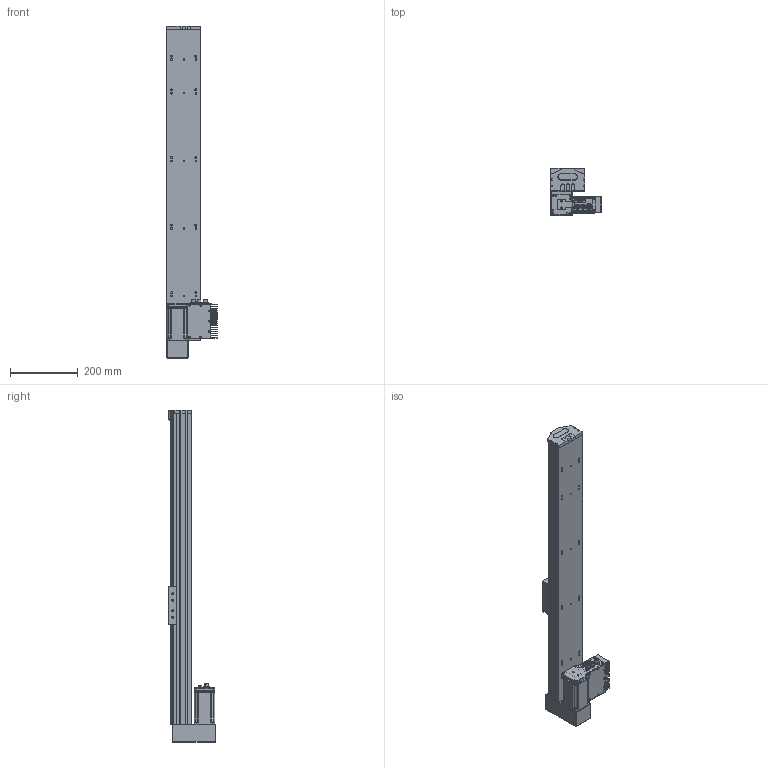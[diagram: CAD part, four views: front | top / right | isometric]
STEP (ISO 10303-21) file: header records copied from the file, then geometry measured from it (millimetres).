
FILE_DESCRIPTION (( 'STEP AP203' ), '1' );
FILE_NAME ('S 10 TSH BM S700.STEP', '2012-09-07T12:45:04', ( 'Conseil Régional Haute-Normandie' ), ( 'Conseil Régional Haute-Normandie' ), 'SwSTEP 2.0', 'SolidWorks 2010', '' );
FILE_SCHEMA (( 'CONFIG_CONTROL_DESIGN' ));
Length unit declared in the file: millimetre
Products named in the file (25): piece_plastique remplieTSH_Default; embout_modifié; T_X2_00F4_X0_le contre le moteur_5; BU41 Carte Alimentation P05_3; T_X2_00F4_X0_le fond_3; Connecteur rond D10 3cts_5; Connecteur rond D12 4cts_5; T_X2_00F4_X0_le lat_X2_00E9_X0_rale_5; Vis TF 3 torkx_1_1; Copie de renvoie LH2_Default; S 10 TSH BM S700; axe920_Default; remplir_Default; Pièce2_Default; palette tbn2; Assem1_7; Colonnette_3; BU45 Carte d''axe A11_5; Moteur 60BLDC90A_3; Couvercle_3; Sub D 9cts 90_X2_00B_X0__3; Radiateur profil_X2_00E9_X0_ 100x25_3; Colonnette ronde_3; T_X2_00F4_X0_le Arri_X2_00E8_X0_re_5; Vis TF 3 torkx
Assembly tree (55 placements, depth 3):
  S 10 TSH BM S700
    piece_plastique remplieTSH_Default
      remplir_Default  x3
      embout_modifié
      Pièce2_Default
    Vis TF 3 torkx  x7
    palette tbn2
    Assem1_7
      BU45 Carte d''axe A11_5
      Vis TF 3 torkx_1_1  x21
      Colonnette_3  x2
      Connecteur rond D10 3cts_5  x2
      T_X2_00F4_X0_le lat_X2_00E9_X0_rale_5  x2
      T_X2_00F4_X0_le fond_3
      Colonnette ronde_3
      T_X2_00F4_X0_le Arri_X2_00E8_X0_re_5
      T_X2_00F4_X0_le contre le moteur_5
      Moteur 60BLDC90A_3
      Couvercle_3
      Connecteur rond D12 4cts_5
      BU41 Carte Alimentation P05_3
      Sub D 9cts 90_X2_00B_X0__3
      Radiateur profil_X2_00E9_X0_ 100x25_3
    Copie de renvoie LH2_Default
    axe920_Default
Bounding box: 149.38 x 138.75 x 982 mm (x, y, z)
Volume: 5489293.6 mm3; surface area: 751625.4 mm2
Topology: 53 solids, 53 shells, 1993 faces, 5068 edges, 3298 vertices
Faces by surface type: plane 929, cylinder 893, cone 164, sphere 4, torus 3
Entity records: 39365 total; most frequent: CARTESIAN_POINT 6591, DIRECTION 6441, ORIENTED_EDGE 5828, EDGE_CURVE 2914, AXIS2_PLACEMENT_3D 2373, VERTEX_POINT 1910, VECTOR 1695, LINE 1695
